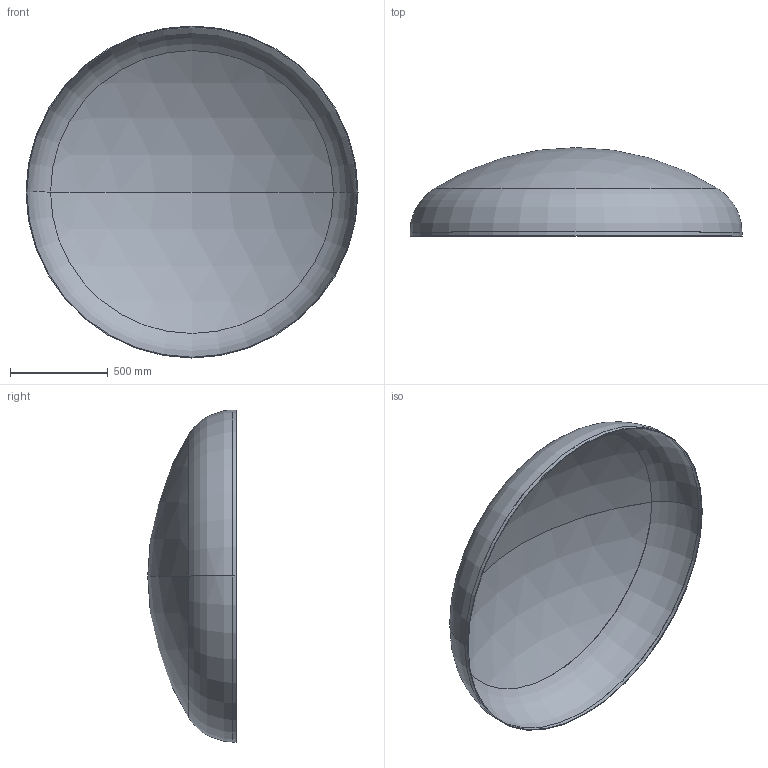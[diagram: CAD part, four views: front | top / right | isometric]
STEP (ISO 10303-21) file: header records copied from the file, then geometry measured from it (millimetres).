
FILE_DESCRIPTION (( 'STEP AP203' ), '1' );
FILE_NAME ('DIN 28013 Korbbogenform_-_Boden DIN 28013 - 1700 x 20 - I - s=4.step', '2016-07-01T11:34:18', ( '' ), ( '' ), 'SwSTEP 2.0', 'SolidWorks 2013', '' );
FILE_SCHEMA (( 'CONFIG_CONTROL_DESIGN' ));
Length unit declared in the file: millimetre
Products named in the file (1): DIN 28013 Korbbogenform_-_Boden DIN 28013 - 1700 x 20 - I - s=4
Bounding box: 1700 x 453.08 x 1700 mm (x, y, z)
Volume: 12946080 mm3; surface area: 6494383.4 mm2
Topology: 1 solids, 1 shells, 13 faces, 24 edges, 14 vertices
Faces by surface type: torus 4, cylinder 4, sphere 4, plane 1
Entity records: 407 total; most frequent: DIRECTION 72, CARTESIAN_POINT 52, ORIENTED_EDGE 48, AXIS2_PLACEMENT_3D 34, EDGE_CURVE 24, CIRCLE 20, VERTEX_POINT 14, EDGE_LOOP 14
